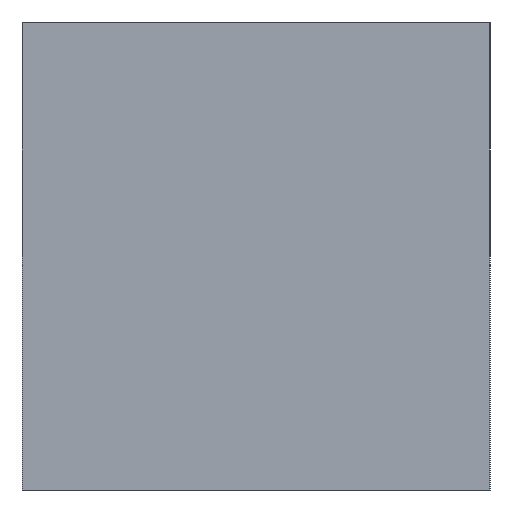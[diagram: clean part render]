
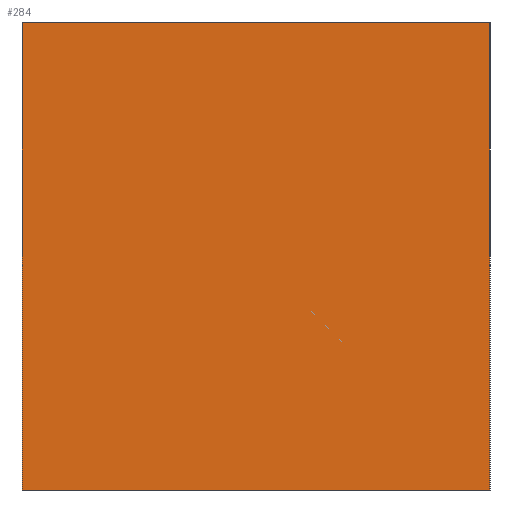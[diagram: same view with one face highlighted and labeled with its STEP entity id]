
A CAD part, left-side view. The second image highlights one B-rep face of the part: STEP entity #284.
In plain terms, the highlighted planar face has unit normal (-1, 0, 0).
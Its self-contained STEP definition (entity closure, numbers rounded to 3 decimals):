
#21 = EDGE_CURVE('',#22,#24,#26,.T.);
#22 = VERTEX_POINT('',#23);
#23 = CARTESIAN_POINT('',(-230.,-200.,0.));
#24 = VERTEX_POINT('',#25);
#25 = CARTESIAN_POINT('',(-230.,-200.,400.));
#26 = SURFACE_CURVE('',#27,(#31,#43),.PCURVE_S1.);
#27 = LINE('',#28,#29);
#28 = CARTESIAN_POINT('',(-230.,-200.,0.));
#29 = VECTOR('',#30,1.);
#30 = DIRECTION('',(0.,0.,1.));
#31 = PCURVE('',#32,#37);
#32 = PLANE('',#33);
#33 = AXIS2_PLACEMENT_3D('',#34,#35,#36);
#34 = CARTESIAN_POINT('',(-230.,-200.,0.));
#35 = DIRECTION('',(0.,1.,0.));
#36 = DIRECTION('',(1.,0.,0.));
#37 = DEFINITIONAL_REPRESENTATION('',(#38),#42);
#38 = LINE('',#39,#40);
#39 = CARTESIAN_POINT('',(0.,0.));
#40 = VECTOR('',#41,1.);
#41 = DIRECTION('',(0.,-1.));
#42 = ( GEOMETRIC_REPRESENTATION_CONTEXT(2) 
PARAMETRIC_REPRESENTATION_CONTEXT() REPRESENTATION_CONTEXT('2D SPACE',''
  ) );
#43 = PCURVE('',#44,#49);
#44 = PLANE('',#45);
#45 = AXIS2_PLACEMENT_3D('',#46,#47,#48);
#46 = CARTESIAN_POINT('',(-230.,200.,0.));
#47 = DIRECTION('',(1.,0.,-0.));
#48 = DIRECTION('',(0.,-1.,0.));
#49 = DEFINITIONAL_REPRESENTATION('',(#50),#54);
#50 = LINE('',#51,#52);
#51 = CARTESIAN_POINT('',(400.,0.));
#52 = VECTOR('',#53,1.);
#53 = DIRECTION('',(0.,-1.));
#54 = ( GEOMETRIC_REPRESENTATION_CONTEXT(2) 
PARAMETRIC_REPRESENTATION_CONTEXT() REPRESENTATION_CONTEXT('2D SPACE',''
  ) );
#72 = PLANE('',#73);
#73 = AXIS2_PLACEMENT_3D('',#74,#75,#76);
#74 = CARTESIAN_POINT('',(0.,0.,400.));
#75 = DIRECTION('',(0.,0.,1.));
#76 = DIRECTION('',(1.,0.,-0.));
#126 = PLANE('',#127);
#127 = AXIS2_PLACEMENT_3D('',#128,#129,#130);
#128 = CARTESIAN_POINT('',(0.,0.,0.));
#129 = DIRECTION('',(0.,0.,1.));
#130 = DIRECTION('',(1.,0.,-0.));
#181 = PLANE('',#182);
#182 = AXIS2_PLACEMENT_3D('',#183,#184,#185);
#183 = CARTESIAN_POINT('',(230.,200.,0.));
#184 = DIRECTION('',(0.,-1.,0.));
#185 = DIRECTION('',(-1.,0.,0.));
#219 = VERTEX_POINT('',#220);
#220 = CARTESIAN_POINT('',(-230.,200.,400.));
#241 = EDGE_CURVE('',#242,#219,#244,.T.);
#242 = VERTEX_POINT('',#243);
#243 = CARTESIAN_POINT('',(-230.,200.,0.));
#244 = SURFACE_CURVE('',#245,(#249,#256),.PCURVE_S1.);
#245 = LINE('',#246,#247);
#246 = CARTESIAN_POINT('',(-230.,200.,0.));
#247 = VECTOR('',#248,1.);
#248 = DIRECTION('',(0.,0.,1.));
#249 = PCURVE('',#181,#250);
#250 = DEFINITIONAL_REPRESENTATION('',(#251),#255);
#251 = LINE('',#252,#253);
#252 = CARTESIAN_POINT('',(460.,0.));
#253 = VECTOR('',#254,1.);
#254 = DIRECTION('',(0.,-1.));
#255 = ( GEOMETRIC_REPRESENTATION_CONTEXT(2) 
PARAMETRIC_REPRESENTATION_CONTEXT() REPRESENTATION_CONTEXT('2D SPACE',''
  ) );
#256 = PCURVE('',#44,#257);
#257 = DEFINITIONAL_REPRESENTATION('',(#258),#262);
#258 = LINE('',#259,#260);
#259 = CARTESIAN_POINT('',(0.,0.));
#260 = VECTOR('',#261,1.);
#261 = DIRECTION('',(0.,-1.));
#262 = ( GEOMETRIC_REPRESENTATION_CONTEXT(2) 
PARAMETRIC_REPRESENTATION_CONTEXT() REPRESENTATION_CONTEXT('2D SPACE',''
  ) );
#284 = ADVANCED_FACE('',(#285),#44,.F.);
#285 = FACE_BOUND('',#286,.F.);
#286 = EDGE_LOOP('',(#287,#288,#309,#310));
#287 = ORIENTED_EDGE('',*,*,#241,.T.);
#288 = ORIENTED_EDGE('',*,*,#289,.T.);
#289 = EDGE_CURVE('',#219,#24,#290,.T.);
#290 = SURFACE_CURVE('',#291,(#295,#302),.PCURVE_S1.);
#291 = LINE('',#292,#293);
#292 = CARTESIAN_POINT('',(-230.,200.,400.));
#293 = VECTOR('',#294,1.);
#294 = DIRECTION('',(0.,-1.,0.));
#295 = PCURVE('',#44,#296);
#296 = DEFINITIONAL_REPRESENTATION('',(#297),#301);
#297 = LINE('',#298,#299);
#298 = CARTESIAN_POINT('',(0.,-400.));
#299 = VECTOR('',#300,1.);
#300 = DIRECTION('',(1.,0.));
#301 = ( GEOMETRIC_REPRESENTATION_CONTEXT(2) 
PARAMETRIC_REPRESENTATION_CONTEXT() REPRESENTATION_CONTEXT('2D SPACE',''
  ) );
#302 = PCURVE('',#72,#303);
#303 = DEFINITIONAL_REPRESENTATION('',(#304),#308);
#304 = LINE('',#305,#306);
#305 = CARTESIAN_POINT('',(-230.,200.));
#306 = VECTOR('',#307,1.);
#307 = DIRECTION('',(0.,-1.));
#308 = ( GEOMETRIC_REPRESENTATION_CONTEXT(2) 
PARAMETRIC_REPRESENTATION_CONTEXT() REPRESENTATION_CONTEXT('2D SPACE',''
  ) );
#309 = ORIENTED_EDGE('',*,*,#21,.F.);
#310 = ORIENTED_EDGE('',*,*,#311,.F.);
#311 = EDGE_CURVE('',#242,#22,#312,.T.);
#312 = SURFACE_CURVE('',#313,(#317,#324),.PCURVE_S1.);
#313 = LINE('',#314,#315);
#314 = CARTESIAN_POINT('',(-230.,200.,0.));
#315 = VECTOR('',#316,1.);
#316 = DIRECTION('',(0.,-1.,0.));
#317 = PCURVE('',#44,#318);
#318 = DEFINITIONAL_REPRESENTATION('',(#319),#323);
#319 = LINE('',#320,#321);
#320 = CARTESIAN_POINT('',(0.,0.));
#321 = VECTOR('',#322,1.);
#322 = DIRECTION('',(1.,0.));
#323 = ( GEOMETRIC_REPRESENTATION_CONTEXT(2) 
PARAMETRIC_REPRESENTATION_CONTEXT() REPRESENTATION_CONTEXT('2D SPACE',''
  ) );
#324 = PCURVE('',#126,#325);
#325 = DEFINITIONAL_REPRESENTATION('',(#326),#330);
#326 = LINE('',#327,#328);
#327 = CARTESIAN_POINT('',(-230.,200.));
#328 = VECTOR('',#329,1.);
#329 = DIRECTION('',(0.,-1.));
#330 = ( GEOMETRIC_REPRESENTATION_CONTEXT(2) 
PARAMETRIC_REPRESENTATION_CONTEXT() REPRESENTATION_CONTEXT('2D SPACE',''
  ) );
